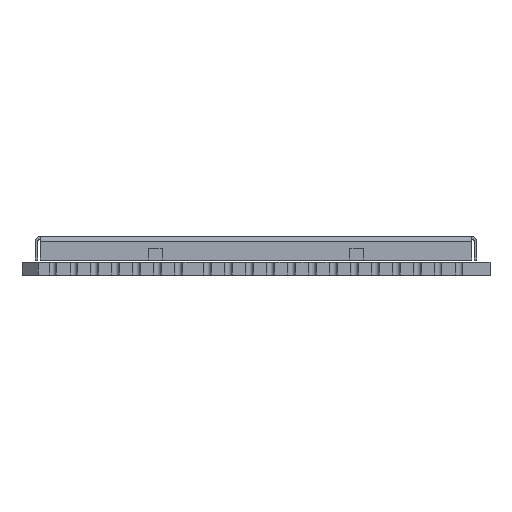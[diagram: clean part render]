
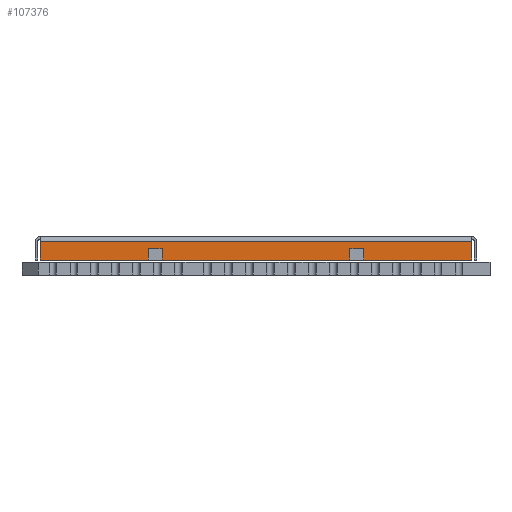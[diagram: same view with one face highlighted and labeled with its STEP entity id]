
A CAD part, front view. The second image highlights one B-rep face of the part: STEP entity #107376.
In plain terms, the highlighted planar face has unit normal (0, -1, 0).
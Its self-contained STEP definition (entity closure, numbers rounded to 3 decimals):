
#62360=DIRECTION('',(0.,0.,-1.));
#62361=VECTOR('',#62360,1.15);
#62362=CARTESIAN_POINT('',(1.125,0.861,2.));
#62363=LINE('',#62362,#62361);
#62383=DIRECTION('',(-1.,0.,0.));
#62384=VECTOR('',#62383,0.861);
#62385=CARTESIAN_POINT('',(8.686,0.861,1.55));
#62386=LINE('',#62385,#62384);
#62390=DIRECTION('',(0.,0.,-1.));
#62391=VECTOR('',#62390,0.7);
#62392=CARTESIAN_POINT('',(7.825,0.861,1.55));
#62393=LINE('',#62392,#62391);
#62397=DIRECTION('',(-1.,0.,0.));
#62398=VECTOR('',#62397,6.7);
#62399=CARTESIAN_POINT('',(7.825,0.861,0.85));
#62400=LINE('',#62399,#62398);
#62404=DIRECTION('',(0.,0.,-1.));
#62405=VECTOR('',#62404,1.15);
#62406=CARTESIAN_POINT('',(27.875,0.861,2.));
#62407=LINE('',#62406,#62405);
#62411=DIRECTION('',(-1.,0.,0.));
#62412=VECTOR('',#62411,6.7);
#62413=CARTESIAN_POINT('',(27.875,0.861,0.85));
#62414=LINE('',#62413,#62412);
#62418=DIRECTION('',(-1.,0.,0.));
#62419=VECTOR('',#62418,0.861);
#62420=CARTESIAN_POINT('',(21.175,0.861,1.55));
#62421=LINE('',#62420,#62419);
#62425=DIRECTION('',(0.,0.,-1.));
#62426=VECTOR('',#62425,0.7);
#62427=CARTESIAN_POINT('',(20.314,0.861,1.55));
#62428=LINE('',#62427,#62426);
#62432=DIRECTION('',(-1.,0.,0.));
#62433=VECTOR('',#62432,11.628);
#62434=CARTESIAN_POINT('',(20.314,0.861,0.85));
#62435=LINE('',#62434,#62433);
#62446=DIRECTION('',(0.,0.,-1.));
#62447=VECTOR('',#62446,0.7);
#62448=CARTESIAN_POINT('',(8.686,0.861,1.55));
#62449=LINE('',#62448,#62447);
#62502=DIRECTION('',(0.,0.,-1.));
#62503=VECTOR('',#62502,0.7);
#62504=CARTESIAN_POINT('',(21.175,0.861,1.55));
#62505=LINE('',#62504,#62503);
#62574=DIRECTION('',(-1.,0.,0.));
#62575=VECTOR('',#62574,26.75);
#62576=CARTESIAN_POINT('',(27.875,0.861,2.));
#62577=LINE('',#62576,#62575);
#93716=CARTESIAN_POINT('',(8.686,0.861,1.55));
#93717=CARTESIAN_POINT('',(7.825,0.861,1.55));
#93718=VERTEX_POINT('',#93716);
#93719=VERTEX_POINT('',#93717);
#93724=CARTESIAN_POINT('',(21.175,0.861,1.55));
#93725=CARTESIAN_POINT('',(20.314,0.861,1.55));
#93726=VERTEX_POINT('',#93724);
#93727=VERTEX_POINT('',#93725);
#93755=CARTESIAN_POINT('',(8.686,0.861,0.85));
#93757=VERTEX_POINT('',#93755);
#93758=CARTESIAN_POINT('',(20.314,0.861,0.85));
#93759=VERTEX_POINT('',#93758);
#93763=CARTESIAN_POINT('',(7.825,0.861,0.85));
#93765=VERTEX_POINT('',#93763);
#93768=CARTESIAN_POINT('',(1.125,0.861,0.85));
#93769=VERTEX_POINT('',#93768);
#93771=CARTESIAN_POINT('',(21.175,0.861,0.85));
#93773=VERTEX_POINT('',#93771);
#93774=CARTESIAN_POINT('',(27.875,0.861,0.85));
#93775=VERTEX_POINT('',#93774);
#93822=CARTESIAN_POINT('',(27.875,0.861,2.));
#93823=VERTEX_POINT('',#93822);
#93826=CARTESIAN_POINT('',(1.125,0.861,2.));
#93827=VERTEX_POINT('',#93826);
#107346=CARTESIAN_POINT('',(0.825,0.861,0.));
#107347=DIRECTION('',(0.,-1.,0.));
#107348=DIRECTION('',(1.,0.,0.));
#107349=AXIS2_PLACEMENT_3D('',#107346,#107347,#107348);
#107350=PLANE('',#107349);
#107352=ORIENTED_EDGE('',*,*,#107351,.T.);
#107354=ORIENTED_EDGE('',*,*,#107353,.T.);
#107356=ORIENTED_EDGE('',*,*,#107355,.T.);
#107357=ORIENTED_EDGE('',*,*,#107333,.F.);
#107359=ORIENTED_EDGE('',*,*,#107358,.F.);
#107361=ORIENTED_EDGE('',*,*,#107360,.T.);
#107363=ORIENTED_EDGE('',*,*,#107362,.T.);
#107365=ORIENTED_EDGE('',*,*,#107364,.F.);
#107367=ORIENTED_EDGE('',*,*,#107366,.T.);
#107369=ORIENTED_EDGE('',*,*,#107368,.T.);
#107371=ORIENTED_EDGE('',*,*,#107370,.T.);
#107373=ORIENTED_EDGE('',*,*,#107372,.F.);
#107374=EDGE_LOOP('',(#107352,#107354,#107356,#107357,#107359,#107361,#107363,
#107365,#107367,#107369,#107371,#107373));
#107375=FACE_OUTER_BOUND('',#107374,.F.);
#107333=EDGE_CURVE('',#93827,#93769,#62363,.T.);
#107351=EDGE_CURVE('',#93718,#93719,#62386,.T.);
#107353=EDGE_CURVE('',#93719,#93765,#62393,.T.);
#107355=EDGE_CURVE('',#93765,#93769,#62400,.T.);
#107358=EDGE_CURVE('',#93823,#93827,#62577,.T.);
#107360=EDGE_CURVE('',#93823,#93775,#62407,.T.);
#107362=EDGE_CURVE('',#93775,#93773,#62414,.T.);
#107364=EDGE_CURVE('',#93726,#93773,#62505,.T.);
#107366=EDGE_CURVE('',#93726,#93727,#62421,.T.);
#107368=EDGE_CURVE('',#93727,#93759,#62428,.T.);
#107370=EDGE_CURVE('',#93759,#93757,#62435,.T.);
#107372=EDGE_CURVE('',#93718,#93757,#62449,.T.);
#107376=ADVANCED_FACE('',(#107375),#107350,.T.);
